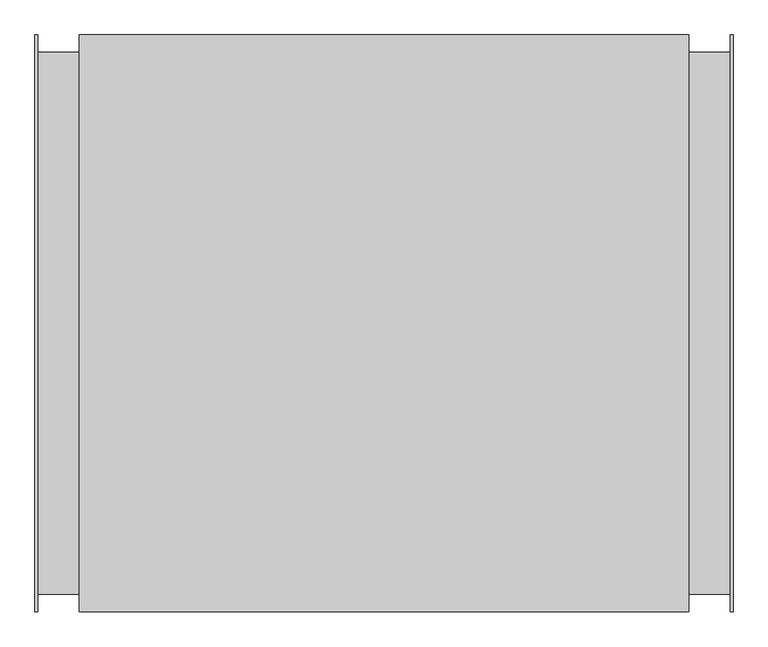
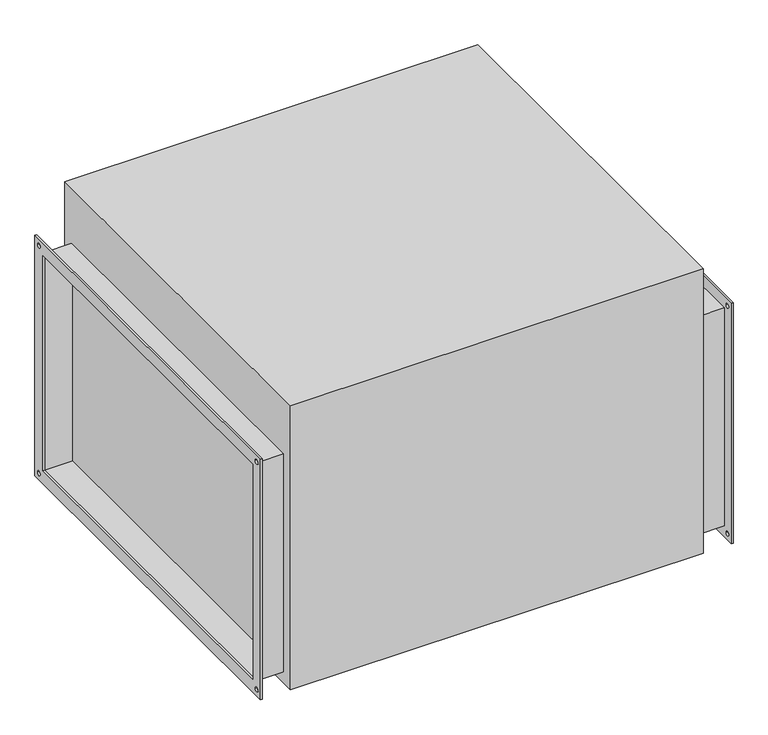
"""IFC4 building model written with IfcOpenShell, lengths in millimetres: proxy geometry."""

from ifc_helpers import new_model, si_unit, point, frame, frame_2d, origin, place, context, project, spatial, polyline, circle_curve, trimmed, segment, composite_curve, outline, extrude, source, transform, mapped, element, save


def mechanical_equipment_2754de4d(model_context):
    return source(origin(), model_context, "Body", "SweptSolid", [
        extrude(outline(polyline([(430.0, 280.0), (430.0, -280.0), (-430.0, -280.0), (-430.0, 280.0), (430.0, 280.0)]), holes=[polyline([(400.0, 250.0), (-400.0, 250.0), (-400.0, -250.0), (400.0, -250.0), (400.0, 250.0)]), composite_curve([segment(trimmed(circle_curve(frame_2d((415.0, 265.0)), 5.0), [point((410.0, 265.0))], [point((420.0, 265.0))], True, "CARTESIAN"), True, "CONTINUOUS"), segment(trimmed(circle_curve(frame_2d((415.0, 265.0)), 5.0), [point((420.0, 265.0))], [point((410.0, 265.0))], True, "CARTESIAN"), True, "CONTINUOUS")], self_intersect=False), composite_curve([segment(trimmed(circle_curve(frame_2d((-415.0, 265.0)), 5.0), [point((-420.0, 265.0))], [point((-410.0, 265.0))], True, "CARTESIAN"), True, "CONTINUOUS"), segment(trimmed(circle_curve(frame_2d((-415.0, 265.0)), 5.0), [point((-410.0, 265.0))], [point((-420.0, 265.0))], True, "CARTESIAN"), True, "CONTINUOUS")], self_intersect=False), composite_curve([segment(trimmed(circle_curve(frame_2d((-415.0, -265.0)), 5.0), [point((-420.0, -265.0))], [point((-410.0, -265.0))], True, "CARTESIAN"), True, "CONTINUOUS"), segment(trimmed(circle_curve(frame_2d((-415.0, -265.0)), 5.0), [point((-410.0, -265.0))], [point((-420.0, -265.0))], True, "CARTESIAN"), True, "CONTINUOUS")], self_intersect=False), composite_curve([segment(trimmed(circle_curve(frame_2d((415.0, -265.0)), 5.0), [point((410.0, -265.0))], [point((420.0, -265.0))], True, "CARTESIAN"), True, "CONTINUOUS"), segment(trimmed(circle_curve(frame_2d((415.0, -265.0)), 5.0), [point((420.0, -265.0))], [point((410.0, -265.0))], True, "CARTESIAN"), True, "CONTINUOUS")], self_intersect=False)]), frame((516.5, 0.0, 0.0), z_axis=(1.0, 0.0, 0.0), x_axis=(0.0, 1.0, 0.0)), (0.0, 0.0, 1.0), 4.0),
        extrude(outline(polyline([(-430.0, 280.0), (430.0, 280.0), (430.0, -280.0), (-430.0, -280.0), (-430.0, 280.0)]), holes=[polyline([(-400.0, 250.0), (-400.0, -250.0), (400.0, -250.0), (400.0, 250.0), (-400.0, 250.0)]), composite_curve([segment(trimmed(circle_curve(frame_2d((415.0, 265.0)), 5.0), [point((410.0, 265.0))], [point((420.0, 265.0))], True, "CARTESIAN"), True, "CONTINUOUS"), segment(trimmed(circle_curve(frame_2d((415.0, 265.0)), 5.0), [point((420.0, 265.0))], [point((410.0, 265.0))], True, "CARTESIAN"), True, "CONTINUOUS")], self_intersect=False), composite_curve([segment(trimmed(circle_curve(frame_2d((-415.0, 265.0)), 5.0), [point((-420.0, 265.0))], [point((-410.0, 265.0))], True, "CARTESIAN"), True, "CONTINUOUS"), segment(trimmed(circle_curve(frame_2d((-415.0, 265.0)), 5.0), [point((-410.0, 265.0))], [point((-420.0, 265.0))], True, "CARTESIAN"), True, "CONTINUOUS")], self_intersect=False), composite_curve([segment(trimmed(circle_curve(frame_2d((-415.0, -265.0)), 5.0), [point((-420.0, -265.0))], [point((-410.0, -265.0))], True, "CARTESIAN"), True, "CONTINUOUS"), segment(trimmed(circle_curve(frame_2d((-415.0, -265.0)), 5.0), [point((-410.0, -265.0))], [point((-420.0, -265.0))], True, "CARTESIAN"), True, "CONTINUOUS")], self_intersect=False), composite_curve([segment(trimmed(circle_curve(frame_2d((415.0, -265.0)), 5.0), [point((410.0, -265.0))], [point((420.0, -265.0))], True, "CARTESIAN"), True, "CONTINUOUS"), segment(trimmed(circle_curve(frame_2d((415.0, -265.0)), 5.0), [point((420.0, -265.0))], [point((410.0, -265.0))], True, "CARTESIAN"), True, "CONTINUOUS")], self_intersect=False)]), frame((-520.5, 0.0, 0.0), z_axis=(1.0, 0.0, 0.0), x_axis=(0.0, 1.0, 0.0)), (0.0, 0.0, 1.0), 4.0),
        extrude(outline(polyline([(454.5, 430.0), (454.5, -430.0), (-454.5, -430.0), (-454.5, 430.0), (454.5, 430.0)])), frame((0.0, 0.0, -280.0), z_axis=(0.0, 0.0, 1.0), x_axis=(1.0, 0.0, 0.0)), (0.0, 0.0, 1.0), 662.0),
        extrude(outline(polyline([(-404.0, 254.0), (404.0, 254.0), (404.0, -254.0), (-404.0, -254.0), (-404.0, 254.0)]), holes=[polyline([(400.0, 250.0), (-400.0, 250.0), (-400.0, -250.0), (400.0, -250.0), (400.0, 250.0)])]), frame((-516.5, 0.0, 0.0), z_axis=(1.0, 0.0, 0.0), x_axis=(0.0, 1.0, 0.0)), (0.0, 0.0, 1.0), 62.0),
        extrude(outline(polyline([(-404.0, 254.0), (404.0, 254.0), (404.0, -254.0), (-404.0, -254.0), (-404.0, 254.0)]), holes=[polyline([(400.0, 250.0), (-400.0, 250.0), (-400.0, -250.0), (400.0, -250.0), (400.0, 250.0)])]), frame((454.5, 0.0, 0.0), z_axis=(1.0, 0.0, 0.0), x_axis=(0.0, 1.0, 0.0)), (0.0, 0.0, 1.0), 62.0),
    ])


if __name__ == "__main__":
    model = new_model("IFC4")
    model_context = context("Model", 3, world=origin())
    ifc_project = project(units=[si_unit("LENGTHUNIT", "METRE", prefix="MILLI")], contexts=[model_context])
    site = spatial("IfcSite", under=ifc_project)
    building = spatial("IfcBuilding", under=site)
    placement = place(None, origin())
    mechanical_equipment_shape = mechanical_equipment_2754de4d(model_context)
    element("IfcBuildingElementProxy", 1, Name="Mechanical Equipment", at=placement, inside=building, context=model_context, shape_type="MappedRepresentation", body=[
        mapped(mechanical_equipment_shape, transform((0.0, 0.0, 0.0), x_axis=(1.0, 0.0, 0.0), y_axis=(0.0, 1.0, 0.0), z_axis=(0.0, 0.0, 1.0))),
    ])
    save(model, "model.ifc")
